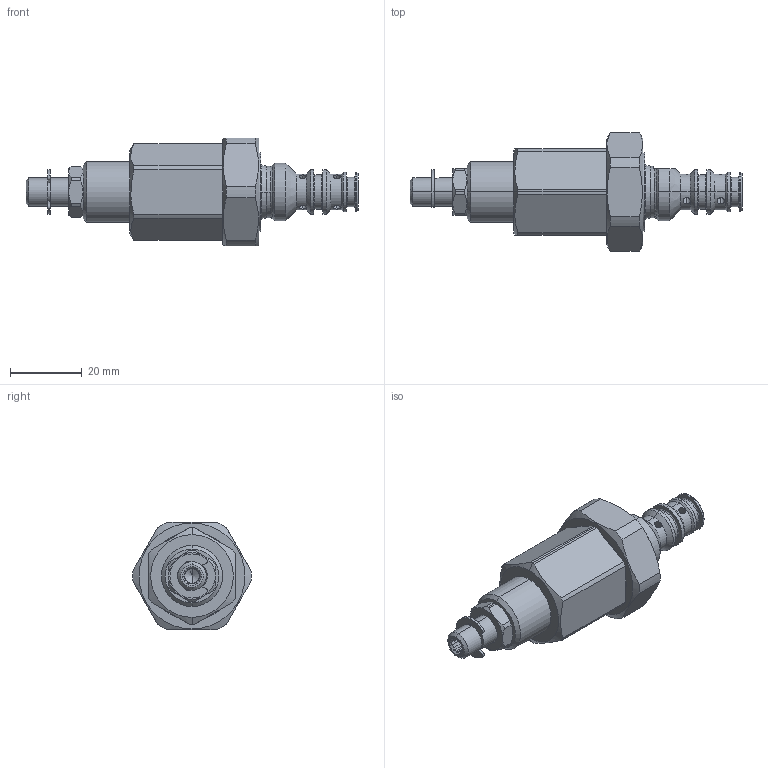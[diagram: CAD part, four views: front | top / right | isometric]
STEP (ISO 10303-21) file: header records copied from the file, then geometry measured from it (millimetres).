
FILE_DESCRIPTION (( 'STEP AP214' ), '1' );
FILE_NAME ('MDSPM16.STEP', '2014-07-14T12:23:02', ( '' ), ( '' ), 'SwSTEP 2.0', 'SolidWorks 2014', '' );
FILE_SCHEMA (( 'AUTOMOTIVE_DESIGN' ));
Length unit declared in the file: millimetre
Products named in the file (2): MDSPM16
Bounding box: 92.5 x 32.98 x 30 mm (x, y, z)
Volume: 27640.7 mm3; surface area: 10128 mm2
Topology: 5 solids, 5 shells, 237 faces, 584 edges, 360 vertices
Faces by surface type: cylinder 98, plane 65, cone 61, torus 13
Entity records: 10211 total; most frequent: CARTESIAN_POINT 1924, DIRECTION 1217, ORIENTED_EDGE 1156, EDGE_CURVE 578, AXIS2_PLACEMENT_3D 501, VERTEX_POINT 360, CIRCLE 262, EDGE_LOOP 256
